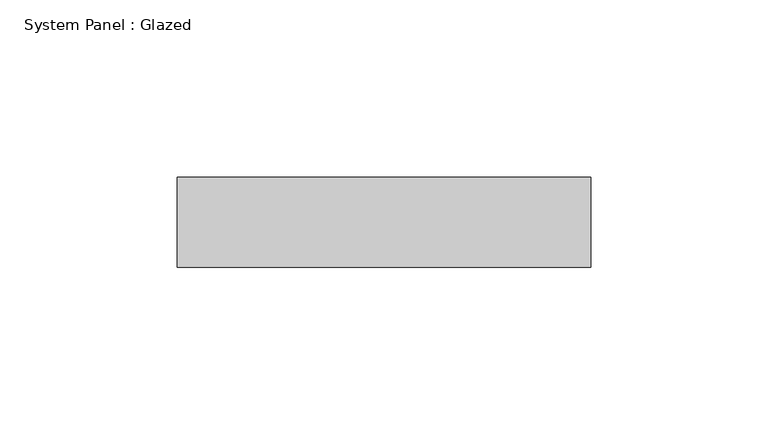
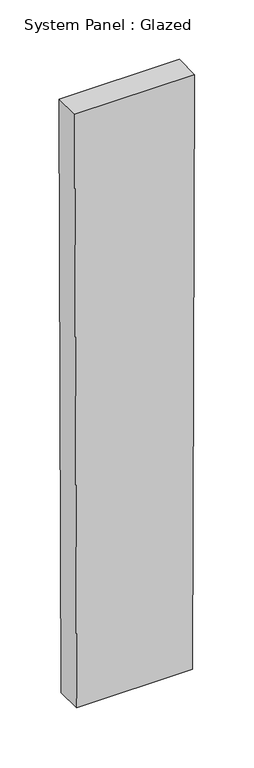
"""IFC4 building model written with IfcOpenShell, lengths in millimetres: plate geometry, System Panel : Glazed."""

from ifc_helpers import new_model, si_unit, frame, origin, place, context, project, spatial, polyline, outline, extrude, source, transform, mapped, element, save


def system_panel_glazed_c18eb5dc(model_context):
    return source(origin(), model_context, "Body", "SweptSolid", [
        extrude(outline(polyline([(0.0, -56.4221895), (0.0, 56.4221895), (609.5970219, 58.3276679), (609.5970219, -58.3276679), (0.0, -56.4221895)])), frame((0.0, -44.45, 0.0), z_axis=(0.0, 1.0, 0.0), x_axis=(0.0, 0.0, 1.0)), (0.0, 0.0, 1.0), 25.4),
    ])


if __name__ == "__main__":
    model = new_model("IFC4")
    model_context = context("Model", 3, world=origin())
    ifc_project = project(units=[si_unit("LENGTHUNIT", "METRE", prefix="MILLI")], contexts=[model_context])
    site = spatial("IfcSite", under=ifc_project)
    building = spatial("IfcBuilding", under=site)
    placement = place(None, origin())
    system_panel_glazed_shape = system_panel_glazed_c18eb5dc(model_context)
    element("IfcPlate", 1, ObjectType="System Panel : Glazed", at=placement, inside=building, context=model_context, shape_type="MappedRepresentation", body=[
        mapped(system_panel_glazed_shape, transform((0.0, 0.0, 0.0), x_axis=(1.0, 0.0, 0.0), y_axis=(0.0, 1.0, 0.0), z_axis=(0.0, 0.0, 1.0))),
    ])
    save(model, "model.ifc")
